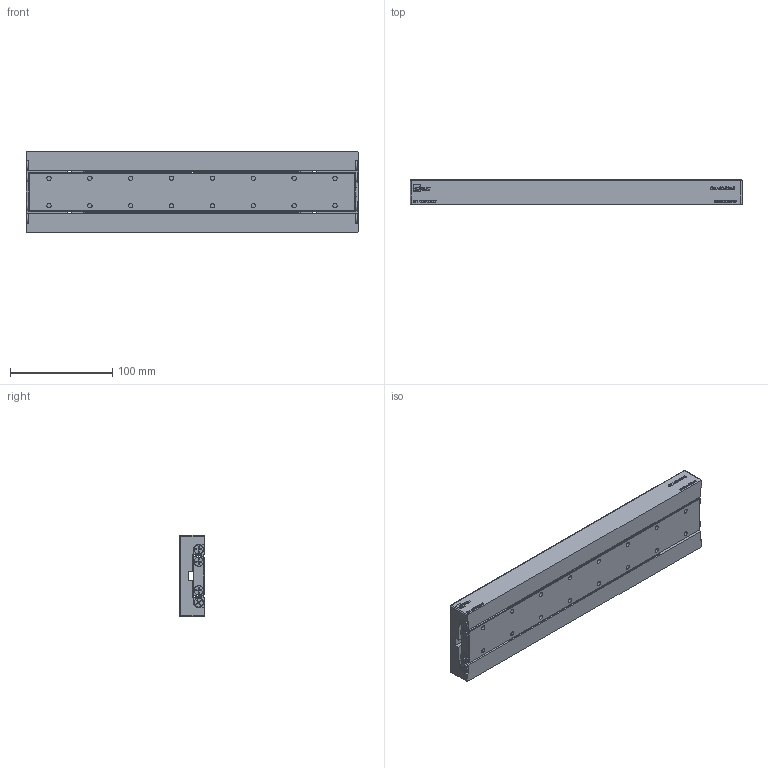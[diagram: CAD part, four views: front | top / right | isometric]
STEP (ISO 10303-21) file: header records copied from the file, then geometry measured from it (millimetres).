
FILE_DESCRIPTION (( 'STEP AP203' ), '1' );
FILE_NAME ('GRA80-325-S.STEP', '2013-12-14T07:18:42', ( '' ), ( '' ), 'SwSTEP 2.0', 'SolidWorks 2013', '' );
FILE_SCHEMA (( 'CONFIG_CONTROL_DESIGN' ));
Length unit declared in the file: millimetre
Products named in the file (1): GRA80-325-S
Bounding box: 325 x 24 x 80 mm (x, y, z)
Surface area: 126212.7 mm2 (no closed solid volume)
Topology: 0 solids, 58 shells, 354 faces, 2576 edges, 2230 vertices
Faces by surface type: plane 227, cylinder 88, torus 28, cone 7, sphere 4
Entity records: 28758 total; most frequent: CARTESIAN_POINT 10435, ORIENTED_EDGE 3303, DIRECTION 3235, EDGE_CURVE 2568, VERTEX_POINT 2230, LINE 1735, VECTOR 1735, AXIS2_PLACEMENT_3D 750
